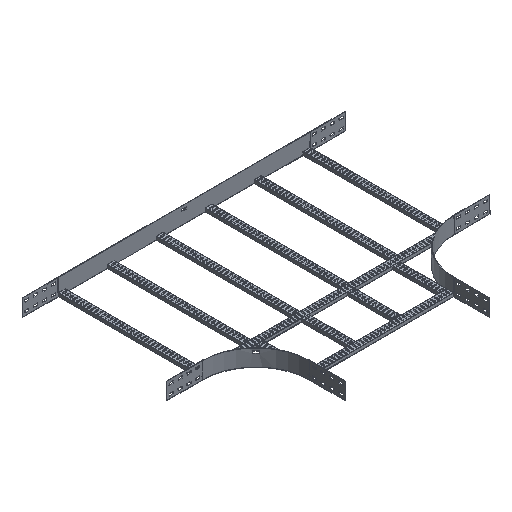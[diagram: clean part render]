
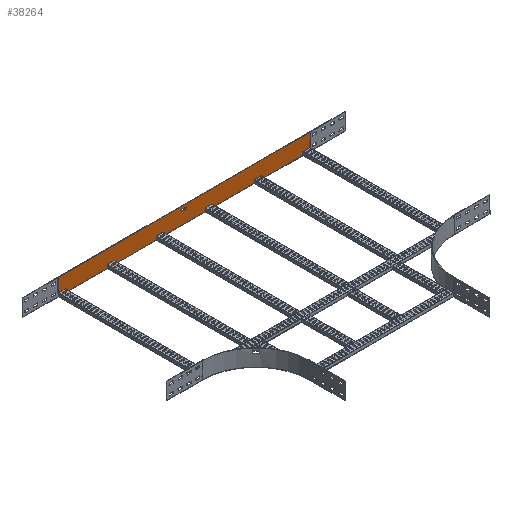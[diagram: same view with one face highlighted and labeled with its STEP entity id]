
A CAD part, isometric view. The second image highlights one B-rep face of the part: STEP entity #38264.
In plain terms, the highlighted planar face has unit normal (0, -1, 0).
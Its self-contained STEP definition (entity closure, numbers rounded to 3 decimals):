
#1682=FACE_BOUND('',#7866,.T.);
#5232=FACE_OUTER_BOUND('',#7865,.T.);
#7865=EDGE_LOOP('',(#35205,#35206,#35207,#35208));
#7866=EDGE_LOOP('',(#35209,#35210,#35211,#35212));
#11568=LINE('',#85241,#15340);
#11570=LINE('',#85247,#15342);
#11573=LINE('',#85252,#15345);
#11580=LINE('',#85265,#15352);
#11581=LINE('',#85269,#15353);
#11582=LINE('',#85271,#15354);
#11583=LINE('',#85273,#15355);
#11584=LINE('',#85274,#15356);
#15340=VECTOR('',#50136,304.8);
#15342=VECTOR('',#50140,304.8);
#15345=VECTOR('',#50145,304.8);
#15352=VECTOR('',#50156,304.8);
#15353=VECTOR('',#50159,304.8);
#15354=VECTOR('',#50160,304.8);
#15355=VECTOR('',#50161,304.8);
#15356=VECTOR('',#50162,304.8);
#19013=VERTEX_POINT('',#85234);
#19016=VERTEX_POINT('',#85239);
#19018=VERTEX_POINT('',#85244);
#19019=VERTEX_POINT('',#85246);
#19025=VERTEX_POINT('',#85267);
#19026=VERTEX_POINT('',#85268);
#19027=VERTEX_POINT('',#85270);
#19028=VERTEX_POINT('',#85272);
#24420=EDGE_CURVE('',#19016,#19013,#11568,.T.);
#24422=EDGE_CURVE('',#19018,#19019,#11570,.T.);
#24425=EDGE_CURVE('',#19013,#19018,#11573,.T.);
#24432=EDGE_CURVE('',#19019,#19016,#11580,.T.);
#24433=EDGE_CURVE('',#19025,#19026,#11581,.T.);
#24434=EDGE_CURVE('',#19026,#19027,#11582,.T.);
#24435=EDGE_CURVE('',#19027,#19028,#11583,.T.);
#24436=EDGE_CURVE('',#19028,#19025,#11584,.T.);
#35205=ORIENTED_EDGE('',*,*,#24420,.F.);
#35206=ORIENTED_EDGE('',*,*,#24432,.F.);
#35207=ORIENTED_EDGE('',*,*,#24422,.F.);
#35208=ORIENTED_EDGE('',*,*,#24425,.F.);
#35209=ORIENTED_EDGE('',*,*,#24433,.T.);
#35210=ORIENTED_EDGE('',*,*,#24434,.T.);
#35211=ORIENTED_EDGE('',*,*,#24435,.T.);
#35212=ORIENTED_EDGE('',*,*,#24436,.T.);
#36416=PLANE('',#41030);
#38264=ADVANCED_FACE('',(#5232,#1682),#36416,.T.);
#41030=AXIS2_PLACEMENT_3D('',#85266,#50157,#50158);
#50136=DIRECTION('',(0.,0.,1.));
#50140=DIRECTION('',(0.,0.,-1.));
#50145=DIRECTION('',(1.,0.,0.));
#50156=DIRECTION('',(-1.,0.,0.));
#50157=DIRECTION('center_axis',(0.,-1.,0.));
#50158=DIRECTION('ref_axis',(1.,0.,0.));
#50159=DIRECTION('',(-1.,0.,0.));
#50160=DIRECTION('',(0.,0.,1.));
#50161=DIRECTION('',(1.,0.,0.));
#50162=DIRECTION('',(0.,0.,-1.));
#85234=CARTESIAN_POINT('',(-705.5,402.5,47.));
#85239=CARTESIAN_POINT('',(-705.5,402.5,-47.));
#85241=CARTESIAN_POINT('',(-705.5,402.5,-47.));
#85244=CARTESIAN_POINT('',(705.5,402.5,47.));
#85246=CARTESIAN_POINT('',(705.5,402.5,-47.));
#85247=CARTESIAN_POINT('',(705.5,402.5,47.));
#85252=CARTESIAN_POINT('',(-705.5,402.5,47.));
#85265=CARTESIAN_POINT('',(-705.5,402.5,-47.));
#85266=CARTESIAN_POINT('Origin',(-705.5,402.5,-47.));
#85267=CARTESIAN_POINT('',(12.5,402.5,20.46));
#85268=CARTESIAN_POINT('',(-12.5,402.5,20.46));
#85269=CARTESIAN_POINT('',(12.5,402.5,20.46));
#85270=CARTESIAN_POINT('',(-12.5,402.5,31.46));
#85271=CARTESIAN_POINT('',(-12.5,402.5,20.46));
#85272=CARTESIAN_POINT('',(12.5,402.5,31.46));
#85273=CARTESIAN_POINT('',(-12.5,402.5,31.46));
#85274=CARTESIAN_POINT('',(12.5,402.5,31.46));
